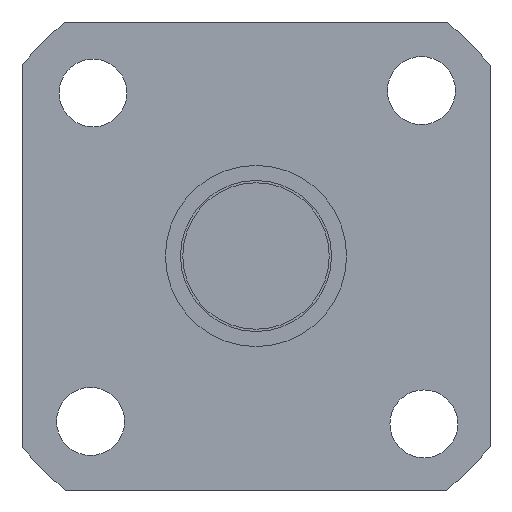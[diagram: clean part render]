
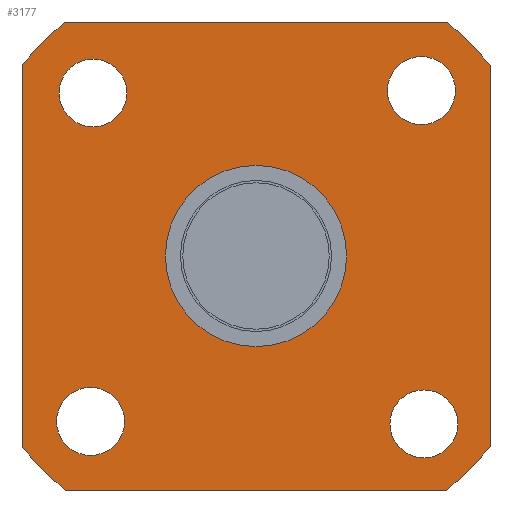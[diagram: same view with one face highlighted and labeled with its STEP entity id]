
A CAD part, left-side view. The second image highlights one B-rep face of the part: STEP entity #3177.
In plain terms, the highlighted planar face has unit normal (-1, 0, 0).
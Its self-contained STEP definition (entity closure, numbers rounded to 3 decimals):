
#451=CARTESIAN_POINT('',(159.677,13.209,-10.959));
#452=VERTEX_POINT('',#451);
#453=CARTESIAN_POINT('',(159.677,10.959,-10.959));
#454=DIRECTION('',(1.0,0.0,0.0));
#455=DIRECTION('',(0.0,1.0,0.0));
#456=AXIS2_PLACEMENT_3D('',#453,#454,#455);
#457=CIRCLE('',#456,2.25);
#458=EDGE_CURVE('',#452,#452,#457,.T.);
#479=CARTESIAN_POINT('',(159.677,-8.709,10.959));
#480=VERTEX_POINT('',#479);
#481=CARTESIAN_POINT('',(159.677,-10.959,10.959));
#482=DIRECTION('',(1.0,0.0,0.0));
#483=DIRECTION('',(0.0,1.0,0.0));
#484=AXIS2_PLACEMENT_3D('',#481,#482,#483);
#485=CIRCLE('',#484,2.25);
#486=EDGE_CURVE('',#480,#480,#485,.T.);
#507=CARTESIAN_POINT('',(159.677,13.049,10.799));
#508=VERTEX_POINT('',#507);
#509=CARTESIAN_POINT('',(159.677,10.799,10.799));
#510=DIRECTION('',(1.0,0.0,0.0));
#511=DIRECTION('',(0.0,1.0,0.0));
#512=AXIS2_PLACEMENT_3D('',#509,#510,#511);
#513=CIRCLE('',#512,2.25);
#514=EDGE_CURVE('',#508,#508,#513,.T.);
#535=CARTESIAN_POINT('',(159.677,-8.871,-11.121));
#536=VERTEX_POINT('',#535);
#537=CARTESIAN_POINT('',(159.677,-11.121,-11.121));
#538=DIRECTION('',(1.0,0.0,0.0));
#539=DIRECTION('',(0.0,1.0,0.0));
#540=AXIS2_PLACEMENT_3D('',#537,#538,#539);
#541=CIRCLE('',#540,2.25);
#542=EDGE_CURVE('',#536,#536,#541,.T.);
#2861=CARTESIAN_POINT('',(159.677,-15.5,-12.639));
#2862=VERTEX_POINT('',#2861);
#2869=CARTESIAN_POINT('',(159.677,-12.639,-15.5));
#2870=VERTEX_POINT('',#2869);
#2871=CARTESIAN_POINT('',(159.677,0.,0.0));
#2872=DIRECTION('',(1.0,0.0,0.0));
#2873=DIRECTION('',(0.0,1.0,0.0));
#2874=AXIS2_PLACEMENT_3D('',#2871,#2872,#2873);
#2875=CIRCLE('',#2874,20.0);
#2876=EDGE_CURVE('',#2862,#2870,#2875,.T.);
#2893=CARTESIAN_POINT('',(159.677,-15.5,12.639));
#2894=VERTEX_POINT('',#2893);
#2901=CARTESIAN_POINT('',(159.677,-15.5,12.639));
#2902=DIRECTION('',(0.0,0.0,-1.0));
#2903=VECTOR('',#2902,25.278);
#2904=LINE('',#2901,#2903);
#2905=EDGE_CURVE('',#2894,#2862,#2904,.T.);
#2917=CARTESIAN_POINT('',(159.677,-12.639,15.5));
#2918=VERTEX_POINT('',#2917);
#2925=CARTESIAN_POINT('',(159.677,0.,0.0));
#2926=DIRECTION('',(1.0,0.0,0.0));
#2927=DIRECTION('',(0.0,1.0,0.0));
#2928=AXIS2_PLACEMENT_3D('',#2925,#2926,#2927);
#2929=CIRCLE('',#2928,20.0);
#2930=EDGE_CURVE('',#2918,#2894,#2929,.T.);
#2942=CARTESIAN_POINT('',(159.677,12.639,15.5));
#2943=VERTEX_POINT('',#2942);
#2950=CARTESIAN_POINT('',(159.677,12.639,15.5));
#2951=DIRECTION('',(0.0,-1.0,0.0));
#2952=VECTOR('',#2951,25.278);
#2953=LINE('',#2950,#2952);
#2954=EDGE_CURVE('',#2943,#2918,#2953,.T.);
#2966=CARTESIAN_POINT('',(159.677,15.5,12.639));
#2967=VERTEX_POINT('',#2966);
#2974=CARTESIAN_POINT('',(159.677,0.,0.0));
#2975=DIRECTION('',(1.0,0.0,0.0));
#2976=DIRECTION('',(0.0,1.0,0.0));
#2977=AXIS2_PLACEMENT_3D('',#2974,#2975,#2976);
#2978=CIRCLE('',#2977,20.0);
#2979=EDGE_CURVE('',#2967,#2943,#2978,.T.);
#2991=CARTESIAN_POINT('',(159.677,15.5,-12.639));
#2992=VERTEX_POINT('',#2991);
#2999=CARTESIAN_POINT('',(159.677,15.5,-12.639));
#3000=DIRECTION('',(0.0,0.0,1.0));
#3001=VECTOR('',#3000,25.278);
#3002=LINE('',#2999,#3001);
#3003=EDGE_CURVE('',#2992,#2967,#3002,.T.);
#3015=CARTESIAN_POINT('',(159.677,12.639,-15.5));
#3016=VERTEX_POINT('',#3015);
#3023=CARTESIAN_POINT('',(159.677,0.,0.0));
#3024=DIRECTION('',(1.0,0.0,0.0));
#3025=DIRECTION('',(0.0,1.0,0.0));
#3026=AXIS2_PLACEMENT_3D('',#3023,#3024,#3025);
#3027=CIRCLE('',#3026,20.0);
#3028=EDGE_CURVE('',#3016,#2992,#3027,.T.);
#3041=CARTESIAN_POINT('',(159.677,-12.639,-15.5));
#3042=DIRECTION('',(0.0,1.0,0.0));
#3043=VECTOR('',#3042,25.278);
#3044=LINE('',#3041,#3043);
#3045=EDGE_CURVE('',#2870,#3016,#3044,.T.);
#3056=CARTESIAN_POINT('',(159.677,6.,0.0));
#3057=VERTEX_POINT('',#3056);
#3058=CARTESIAN_POINT('',(159.677,0.,0.0));
#3059=DIRECTION('',(1.0,0.0,0.0));
#3060=DIRECTION('',(0.0,1.0,0.0));
#3061=AXIS2_PLACEMENT_3D('',#3058,#3059,#3060);
#3062=CIRCLE('',#3061,6.);
#3063=EDGE_CURVE('',#3057,#3057,#3062,.T.);
#3147=CARTESIAN_POINT('',(159.677,8.75,0.0));
#3148=DIRECTION('',(-1.0,0.0,0.0));
#3149=DIRECTION('',(0.0,0.0,1.0));
#3150=AXIS2_PLACEMENT_3D('',#3147,#3148,#3149);
#3151=PLANE('',#3150);
#3152=ORIENTED_EDGE('',*,*,#2954,.F.);
#3153=ORIENTED_EDGE('',*,*,#2979,.F.);
#3154=ORIENTED_EDGE('',*,*,#3003,.F.);
#3155=ORIENTED_EDGE('',*,*,#3028,.F.);
#3156=ORIENTED_EDGE('',*,*,#3045,.F.);
#3157=ORIENTED_EDGE('',*,*,#2876,.F.);
#3158=ORIENTED_EDGE('',*,*,#2905,.F.);
#3159=ORIENTED_EDGE('',*,*,#2930,.F.);
#3160=EDGE_LOOP('',(#3152,#3153,#3154,#3155,#3156,#3157,#3158,#3159));
#3161=FACE_OUTER_BOUND('',#3160,.T.);
#3162=ORIENTED_EDGE('',*,*,#458,.T.);
#3163=EDGE_LOOP('',(#3162));
#3164=FACE_BOUND('',#3163,.T.);
#3165=ORIENTED_EDGE('',*,*,#486,.T.);
#3166=EDGE_LOOP('',(#3165));
#3167=FACE_BOUND('',#3166,.T.);
#3168=ORIENTED_EDGE('',*,*,#514,.T.);
#3169=EDGE_LOOP('',(#3168));
#3170=FACE_BOUND('',#3169,.T.);
#3171=ORIENTED_EDGE('',*,*,#542,.T.);
#3172=EDGE_LOOP('',(#3171));
#3173=FACE_BOUND('',#3172,.T.);
#3174=ORIENTED_EDGE('',*,*,#3063,.T.);
#3175=EDGE_LOOP('',(#3174));
#3176=FACE_BOUND('',#3175,.T.);
#3177=ADVANCED_FACE('',(#3161,#3164,#3167,#3170,#3173,#3176),#3151,.T.);
